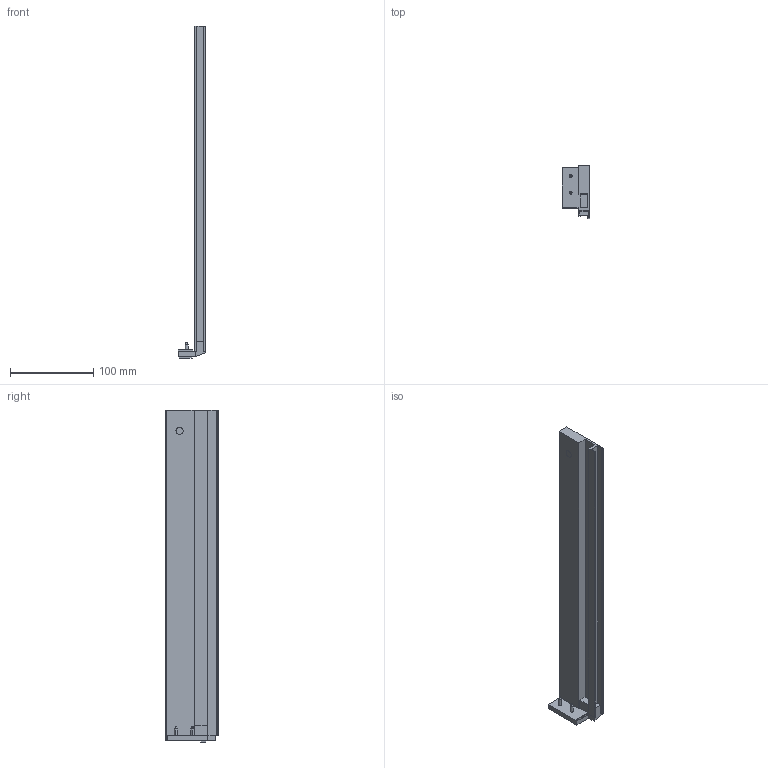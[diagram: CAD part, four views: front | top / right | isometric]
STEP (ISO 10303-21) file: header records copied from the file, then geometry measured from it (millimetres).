
FILE_DESCRIPTION (( 'STEP AP214' ), '1' );
FILE_NAME ('Vionaro_Alu-Zarge_H63_V1_NL400_RE.STEP', '2014-08-22T09:38:14', ( '' ), ( '' ), 'SwSTEP 2.0', 'SolidWorks 2013', '' );
FILE_SCHEMA (( 'AUTOMOTIVE_DESIGN' ));
Length unit declared in the file: millimetre
Products named in the file (1): Vionaro_Alu-Zarge_H63_V1_NL400_RE
Bounding box: 33 x 63 x 397.9 mm (x, y, z)
Volume: 225558.8 mm3; surface area: 78381 mm2
Topology: 1 solids, 1 shells, 71 faces, 185 edges, 121 vertices
Faces by surface type: plane 59, cylinder 8, cone 4
Entity records: 2178 total; most frequent: CARTESIAN_POINT 378, ORIENTED_EDGE 370, DIRECTION 350, EDGE_CURVE 185, LINE 164, VECTOR 164, VERTEX_POINT 121, AXIS2_PLACEMENT_3D 93
